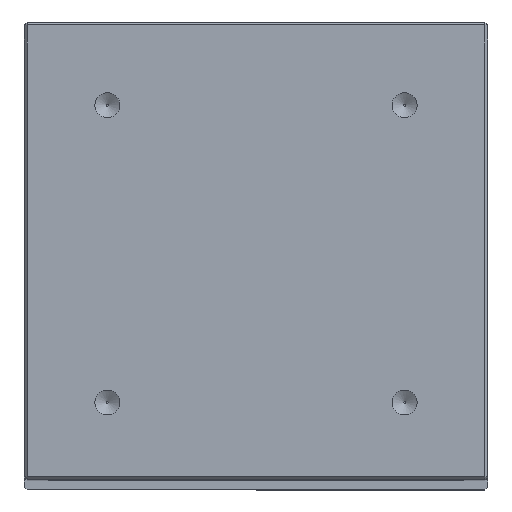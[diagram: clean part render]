
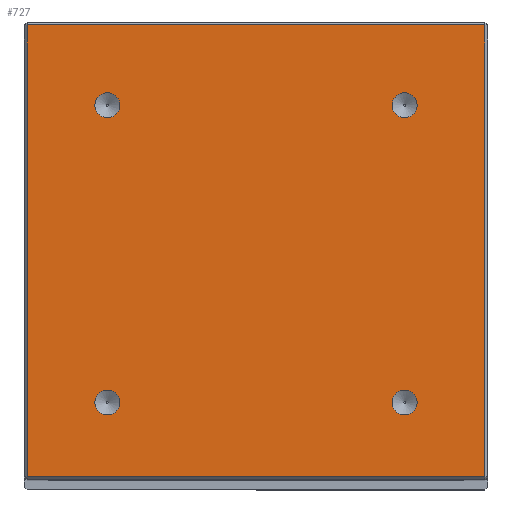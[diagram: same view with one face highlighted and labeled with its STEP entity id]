
A CAD part, top view. The second image highlights one B-rep face of the part: STEP entity #727.
In plain terms, the highlighted planar face has unit normal (0, 0, 1).
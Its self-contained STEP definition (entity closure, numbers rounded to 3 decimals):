
#31 = EDGE_LOOP ( 'NONE', ( #17795 ) ) ;
#565 = EDGE_LOOP ( 'NONE', ( #14586 ) ) ;
#727 = ADVANCED_FACE ( 'NONE', ( #17125, #5424, #5008, #13406, #16458 ), #999, .F. ) ;
#999 = PLANE ( 'NONE',  #7926 ) ;
#1261 = VERTEX_POINT ( 'NONE', #6495 ) ;
#1541 = CARTESIAN_POINT ( 'NONE',  ( -38.5, 40.5, 6. ) ) ;
#1645 = CIRCLE ( 'NONE', #9716, 2.1 ) ;
#1710 = CARTESIAN_POINT ( 'NONE',  ( -38.5, 40., 6. ) ) ;
#2751 = CIRCLE ( 'NONE', #16103, 2.1 ) ;
#2984 = DIRECTION ( 'NONE',  ( 0., 1., 0. ) ) ;
#3024 = CARTESIAN_POINT ( 'NONE',  ( 35., 40., 6. ) ) ;
#3119 = DIRECTION ( 'NONE',  ( 0., 0., 1. ) ) ;
#3164 = ORIENTED_EDGE ( 'NONE', *, *, #16076, .F. ) ;
#3923 = DIRECTION ( 'NONE',  ( 0., 1., 0. ) ) ;
#4389 = EDGE_CURVE ( 'NONE', #8512, #7296, #10511, .T. ) ;
#4529 = DIRECTION ( 'NONE',  ( 0., 0., 1. ) ) ;
#5008 = FACE_BOUND ( 'NONE', #13277, .T. ) ;
#5424 = FACE_BOUND ( 'NONE', #565, .T. ) ;
#5576 = LINE ( 'NONE', #8121, #15116 ) ;
#5916 = CARTESIAN_POINT ( 'NONE',  ( 25., 26.5, 6. ) ) ;
#5962 = VECTOR ( 'NONE', #11390, 1000. ) ;
#6025 = DIRECTION ( 'NONE',  ( 1., 0., 0. ) ) ;
#6495 = CARTESIAN_POINT ( 'NONE',  ( -38.5, -36., 6. ) ) ;
#6537 = CARTESIAN_POINT ( 'NONE',  ( 38.5, -36., 6. ) ) ;
#6803 = DIRECTION ( 'NONE',  ( 0., 0., -1. ) ) ;
#6833 = CIRCLE ( 'NONE', #9968, 2.1 ) ;
#7193 = DIRECTION ( 'NONE',  ( 0., 0., 1. ) ) ;
#7275 = CARTESIAN_POINT ( 'NONE',  ( 27.1, 26.5, 6. ) ) ;
#7296 = VERTEX_POINT ( 'NONE', #1710 ) ;
#7368 = ORIENTED_EDGE ( 'NONE', *, *, #16273, .F. ) ;
#7926 = AXIS2_PLACEMENT_3D ( 'NONE', #9436, #6803, #9500 ) ;
#8110 = VECTOR ( 'NONE', #2984, 1000. ) ;
#8121 = CARTESIAN_POINT ( 'NONE',  ( 35., -36., 6. ) ) ;
#8512 = VERTEX_POINT ( 'NONE', #11241 ) ;
#8524 = EDGE_LOOP ( 'NONE', ( #7368 ) ) ;
#9020 = VERTEX_POINT ( 'NONE', #7275 ) ;
#9436 = CARTESIAN_POINT ( 'NONE',  ( 35., 40.5, 6. ) ) ;
#9441 = VERTEX_POINT ( 'NONE', #15815 ) ;
#9500 = DIRECTION ( 'NONE',  ( 0., -1., 0. ) ) ;
#9716 = AXIS2_PLACEMENT_3D ( 'NONE', #5916, #4529, #15597 ) ;
#9924 = CARTESIAN_POINT ( 'NONE',  ( 27.1, -23.5, 6. ) ) ;
#9968 = AXIS2_PLACEMENT_3D ( 'NONE', #11420, #3119, #10197 ) ;
#10089 = ORIENTED_EDGE ( 'NONE', *, *, #4389, .T. ) ;
#10119 = VERTEX_POINT ( 'NONE', #6537 ) ;
#10197 = DIRECTION ( 'NONE',  ( 1., 0., 0. ) ) ;
#10511 = LINE ( 'NONE', #3024, #5962 ) ;
#10600 = ORIENTED_EDGE ( 'NONE', *, *, #15394, .T. ) ;
#10947 = EDGE_LOOP ( 'NONE', ( #17652, #10089, #15806, #10600 ) ) ;
#11119 = AXIS2_PLACEMENT_3D ( 'NONE', #14027, #7193, #15443 ) ;
#11165 = EDGE_CURVE ( 'NONE', #1261, #7296, #11799, .T. ) ;
#11241 = CARTESIAN_POINT ( 'NONE',  ( 38.5, 40., 6. ) ) ;
#11390 = DIRECTION ( 'NONE',  ( -1., 0., 0. ) ) ;
#11393 = CARTESIAN_POINT ( 'NONE',  ( -22.9, 26.5, 6. ) ) ;
#11420 = CARTESIAN_POINT ( 'NONE',  ( -25., -23.5, 6. ) ) ;
#11630 = CARTESIAN_POINT ( 'NONE',  ( 25., -23.5, 6. ) ) ;
#11799 = LINE ( 'NONE', #1541, #8110 ) ;
#12812 = LINE ( 'NONE', #17377, #16941 ) ;
#12940 = VERTEX_POINT ( 'NONE', #11393 ) ;
#13026 = DIRECTION ( 'NONE',  ( 0., 0., 1. ) ) ;
#13244 = EDGE_CURVE ( 'NONE', #10119, #8512, #12812, .T. ) ;
#13277 = EDGE_LOOP ( 'NONE', ( #3164 ) ) ;
#13406 = FACE_BOUND ( 'NONE', #8524, .T. ) ;
#14027 = CARTESIAN_POINT ( 'NONE',  ( -25., 26.5, 6. ) ) ;
#14586 = ORIENTED_EDGE ( 'NONE', *, *, #15735, .F. ) ;
#14656 = CIRCLE ( 'NONE', #11119, 2.1 ) ;
#14675 = VERTEX_POINT ( 'NONE', #9924 ) ;
#14849 = EDGE_CURVE ( 'NONE', #14675, #14675, #2751, .T. ) ;
#15116 = VECTOR ( 'NONE', #17813, 1000. ) ;
#15394 = EDGE_CURVE ( 'NONE', #1261, #10119, #5576, .T. ) ;
#15443 = DIRECTION ( 'NONE',  ( 1., 0., 0. ) ) ;
#15597 = DIRECTION ( 'NONE',  ( 1., 0., 0. ) ) ;
#15735 = EDGE_CURVE ( 'NONE', #12940, #12940, #14656, .T. ) ;
#15806 = ORIENTED_EDGE ( 'NONE', *, *, #11165, .F. ) ;
#15815 = CARTESIAN_POINT ( 'NONE',  ( -22.9, -23.5, 6. ) ) ;
#16076 = EDGE_CURVE ( 'NONE', #9020, #9020, #1645, .T. ) ;
#16103 = AXIS2_PLACEMENT_3D ( 'NONE', #11630, #13026, #6025 ) ;
#16273 = EDGE_CURVE ( 'NONE', #9441, #9441, #6833, .T. ) ;
#16458 = FACE_BOUND ( 'NONE', #31, .T. ) ;
#16941 = VECTOR ( 'NONE', #3923, 1000. ) ;
#17125 = FACE_OUTER_BOUND ( 'NONE', #10947, .T. ) ;
#17377 = CARTESIAN_POINT ( 'NONE',  ( 38.5, 40.5, 6. ) ) ;
#17652 = ORIENTED_EDGE ( 'NONE', *, *, #13244, .T. ) ;
#17795 = ORIENTED_EDGE ( 'NONE', *, *, #14849, .F. ) ;
#17813 = DIRECTION ( 'NONE',  ( 1., 0., 0. ) ) ;
